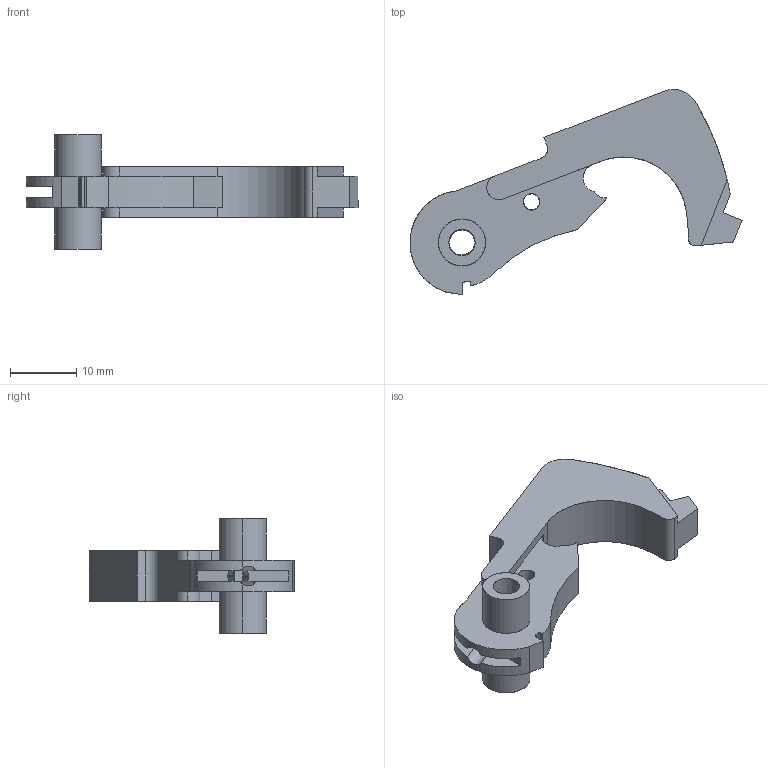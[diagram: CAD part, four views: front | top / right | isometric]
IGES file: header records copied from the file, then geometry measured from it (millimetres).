
Start section: SolidWorks IGES file using analytic representation for surfaces
Global section: file name: C:\Users\NIGELLUS-DT\Desktop\Hammer-Auto.IGS; native system: SolidWorks 2014; preprocessor: SolidWorks 2014; author: NIGELLUS-DT; date: 141127.192941; units: inch
Bounding box: 50.27 x 31.06 x 17.27 mm (x, y, z)
Surface area: 2991.2 mm2 (no closed solid volume)
Topology: 0 solids, 0 shells, 71 faces, 1054 edges, 1052 vertices
Faces by surface type: revolution 39, bspline 32
